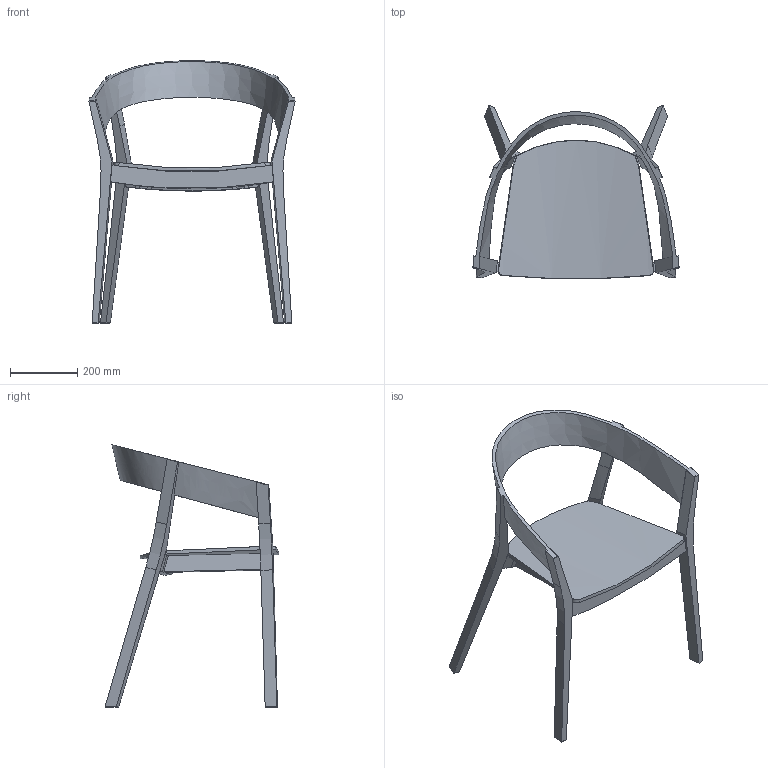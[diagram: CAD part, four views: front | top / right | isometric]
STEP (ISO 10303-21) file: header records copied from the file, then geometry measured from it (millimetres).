
FILE_DESCRIPTION(/* description */ (''),/* implementation_level */ '2;1');
FILE_NAME(/* name */ 'C:\Users\GG\Desktop\arch\4800-B ARCHER\bryły\B-4800.stp',/* time_stamp */ '2021-11-22T11:28:30+01:00',/* author */ ('GG'),/* organization */ (''),/* preprocessor_version */ 'ST-DEVELOPER v18',/* originating_system */ 'Autodesk Inventor 2020',/* authorisation */ '');
FILE_SCHEMA (('AUTOMOTIVE_DESIGN { 1 0 10303 214 3 1 1 }'));
Length unit declared in the file: millimetre
Products named in the file (1): Baza do pcon
Bounding box: 611.48 x 515.55 x 778.84 mm (x, y, z)
Volume: 6664305.6 mm3; surface area: 1053379.9 mm2
Topology: 1 solids, 1 shells, 106 faces, 310 edges, 204 vertices
Faces by surface type: plane 66, cylinder 22, bspline 18
Entity records: 5955 total; most frequent: CARTESIAN_POINT 3267, ORIENTED_EDGE 620, DIRECTION 456, EDGE_CURVE 310, VERTEX_POINT 204, LINE 190, VECTOR 190, AXIS2_PLACEMENT_3D 133
